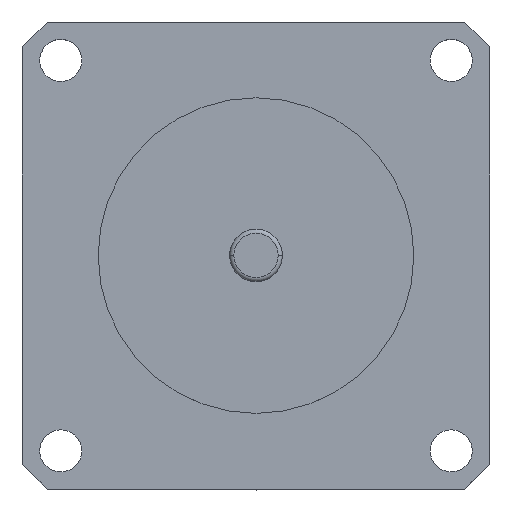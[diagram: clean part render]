
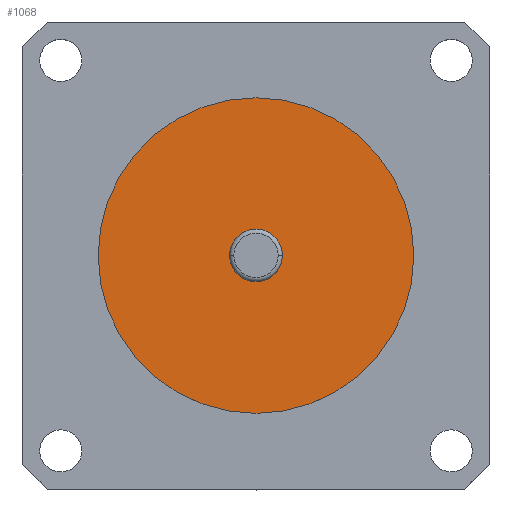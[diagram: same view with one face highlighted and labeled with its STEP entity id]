
A CAD part, top view. The second image highlights one B-rep face of the part: STEP entity #1068.
In plain terms, the highlighted planar face has unit normal (0, 0, 1).
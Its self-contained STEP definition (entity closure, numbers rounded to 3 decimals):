
#41 = EDGE_CURVE ( 'NONE', #412, #599, #306, .T. ) ;
#54 = DIRECTION ( 'NONE',  ( 1., 0., 0. ) ) ;
#56 = EDGE_LOOP ( 'NONE', ( #202, #1003 ) ) ;
#93 = FACE_BOUND ( 'NONE', #56, .T. ) ;
#153 = CARTESIAN_POINT ( 'NONE',  ( 0., 0., 1.5 ) ) ;
#157 = CARTESIAN_POINT ( 'NONE',  ( 0., 0., 1.5 ) ) ;
#202 = ORIENTED_EDGE ( 'NONE', *, *, #837, .T. ) ;
#251 = DIRECTION ( 'NONE',  ( 1., 0., 0. ) ) ;
#256 = DIRECTION ( 'NONE',  ( 1., 0., 0. ) ) ;
#290 = PLANE ( 'NONE',  #957 ) ;
#306 = CIRCLE ( 'NONE', #1228, 3.175 ) ;
#315 = AXIS2_PLACEMENT_3D ( 'NONE', #157, #825, #256 ) ;
#322 = FACE_OUTER_BOUND ( 'NONE', #1151, .T. ) ;
#376 = ORIENTED_EDGE ( 'NONE', *, *, #1169, .T. ) ;
#403 = CIRCLE ( 'NONE', #315, 19.05 ) ;
#412 = VERTEX_POINT ( 'NONE', #747 ) ;
#430 = AXIS2_PLACEMENT_3D ( 'NONE', #153, #821, #251 ) ;
#485 = DIRECTION ( 'NONE',  ( 0., 0., 1. ) ) ;
#508 = CARTESIAN_POINT ( 'NONE',  ( 0., 0., 1.5 ) ) ;
#516 = VERTEX_POINT ( 'NONE', #1095 ) ;
#596 = DIRECTION ( 'NONE',  ( 1., 0., 0. ) ) ;
#599 = VERTEX_POINT ( 'NONE', #656 ) ;
#630 = DIRECTION ( 'NONE',  ( 0., 0., 1. ) ) ;
#656 = CARTESIAN_POINT ( 'NONE',  ( -3.175, 0., 1.5 ) ) ;
#747 = CARTESIAN_POINT ( 'NONE',  ( 3.175, 0., 1.5 ) ) ;
#765 = ORIENTED_EDGE ( 'NONE', *, *, #1242, .T. ) ;
#821 = DIRECTION ( 'NONE',  ( 0., 0., -1. ) ) ;
#825 = DIRECTION ( 'NONE',  ( 0., 0., 1. ) ) ;
#837 = EDGE_CURVE ( 'NONE', #599, #412, #1069, .T. ) ;
#869 = VERTEX_POINT ( 'NONE', #1222 ) ;
#957 = AXIS2_PLACEMENT_3D ( 'NONE', #1059, #485, #1147 ) ;
#1003 = ORIENTED_EDGE ( 'NONE', *, *, #41, .T. ) ;
#1059 = CARTESIAN_POINT ( 'NONE',  ( 0., 0., 1.5 ) ) ;
#1068 = ADVANCED_FACE ( 'NONE', ( #322, #93 ), #290, .T. ) ;
#1069 = CIRCLE ( 'NONE', #430, 3.175 ) ;
#1095 = CARTESIAN_POINT ( 'NONE',  ( -19.05, 0., 1.5 ) ) ;
#1147 = DIRECTION ( 'NONE',  ( 1., 0., 0. ) ) ;
#1151 = EDGE_LOOP ( 'NONE', ( #376, #765 ) ) ;
#1165 = DIRECTION ( 'NONE',  ( 0., 0., -1. ) ) ;
#1169 = EDGE_CURVE ( 'NONE', #516, #869, #1211, .T. ) ;
#1201 = CARTESIAN_POINT ( 'NONE',  ( 0., 0., 1.5 ) ) ;
#1211 = CIRCLE ( 'NONE', #1233, 19.05 ) ;
#1222 = CARTESIAN_POINT ( 'NONE',  ( 19.05, 0., 1.5 ) ) ;
#1228 = AXIS2_PLACEMENT_3D ( 'NONE', #508, #1165, #596 ) ;
#1233 = AXIS2_PLACEMENT_3D ( 'NONE', #1201, #630, #54 ) ;
#1242 = EDGE_CURVE ( 'NONE', #869, #516, #403, .T. ) ;
